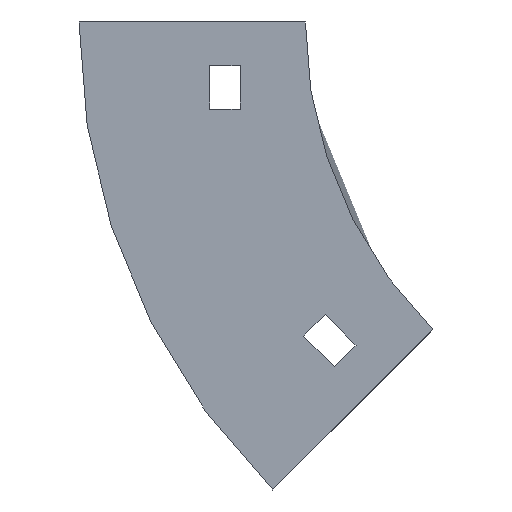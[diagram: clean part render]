
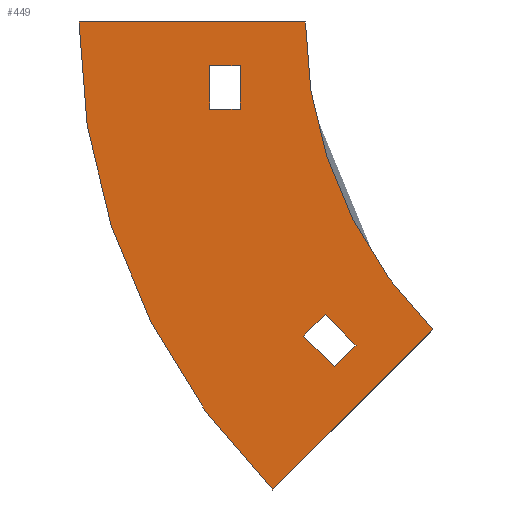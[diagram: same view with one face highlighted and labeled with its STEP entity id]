
A CAD part, left-side view. The second image highlights one B-rep face of the part: STEP entity #449.
In plain terms, the highlighted planar face has unit normal (-1, 0, 0).
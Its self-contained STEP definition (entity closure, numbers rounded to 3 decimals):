
#17 = VECTOR ( 'NONE', #924, 1000. ) ;
#23 = EDGE_CURVE ( 'NONE', #770, #645, #608, .T. ) ;
#40 = CARTESIAN_POINT ( 'NONE',  ( -252., 0.409, -72.125 ) ) ;
#57 = VECTOR ( 'NONE', #773, 1000. ) ;
#89 = CARTESIAN_POINT ( 'NONE',  ( -252., -29.289, -70.711 ) ) ;
#101 = CIRCLE ( 'NONE', #1066, 100. ) ;
#106 = ORIENTED_EDGE ( 'NONE', *, *, #335, .F. ) ;
#108 = PLANE ( 'NONE',  #501 ) ;
#116 = VECTOR ( 'NONE', #1038, 1000. ) ;
#118 = DIRECTION ( 'NONE',  ( 0., 1., 0. ) ) ;
#120 = ORIENTED_EDGE ( 'NONE', *, *, #23, .T. ) ;
#125 = EDGE_CURVE ( 'NONE', #1026, #987, #580, .T. ) ;
#135 = AXIS2_PLACEMENT_3D ( 'NONE', #1110, #834, #660 ) ;
#138 = VERTEX_POINT ( 'NONE', #1017 ) ;
#151 = CARTESIAN_POINT ( 'NONE',  ( -252., -29.289, -70.711 ) ) ;
#222 = DIRECTION ( 'NONE',  ( 0., 0.707, -0.707 ) ) ;
#227 = VECTOR ( 'NONE', #118, 1000. ) ;
#234 = DIRECTION ( 'NONE',  ( 0., -1., 0. ) ) ;
#262 = ORIENTED_EDGE ( 'NONE', *, *, #888, .F. ) ;
#266 = CARTESIAN_POINT ( 'NONE',  ( -252., 7.48, -107.48 ) ) ;
#292 = CARTESIAN_POINT ( 'NONE',  ( -252., -11.612, -74.246 ) ) ;
#299 = DIRECTION ( 'NONE',  ( -1., 0., 0. ) ) ;
#300 = CARTESIAN_POINT ( 'NONE',  ( -252., 15., -10. ) ) ;
#301 = DIRECTION ( 'NONE',  ( 0., 0., 1. ) ) ;
#313 = DIRECTION ( 'NONE',  ( 0., -0.707, 0.707 ) ) ;
#329 = CARTESIAN_POINT ( 'NONE',  ( -252., 15., -10. ) ) ;
#335 = EDGE_CURVE ( 'NONE', #341, #1097, #830, .T. ) ;
#341 = VERTEX_POINT ( 'NONE', #40 ) ;
#349 = ORIENTED_EDGE ( 'NONE', *, *, #1044, .F. ) ;
#358 = VECTOR ( 'NONE', #989, 1000. ) ;
#359 = VECTOR ( 'NONE', #234, 1000. ) ;
#369 = LINE ( 'NONE', #1085, #227 ) ;
#373 = LINE ( 'NONE', #540, #847 ) ;
#395 = ORIENTED_EDGE ( 'NONE', *, *, #125, .F. ) ;
#396 = CARTESIAN_POINT ( 'NONE',  ( -252., -11.612, -74.246 ) ) ;
#398 = EDGE_CURVE ( 'NONE', #425, #770, #1048, .T. ) ;
#415 = CARTESIAN_POINT ( 'NONE',  ( -252., 52., 0. ) ) ;
#425 = VERTEX_POINT ( 'NONE', #758 ) ;
#437 = ORIENTED_EDGE ( 'NONE', *, *, #753, .T. ) ;
#449 = ADVANCED_FACE ( 'NONE', ( #472, #477, #909 ), #108, .T. ) ;
#467 = CARTESIAN_POINT ( 'NONE',  ( -252., -4.541, -67.175 ) ) ;
#472 = FACE_BOUND ( 'NONE', #706, .T. ) ;
#477 = FACE_OUTER_BOUND ( 'NONE', #825, .T. ) ;
#501 = AXIS2_PLACEMENT_3D ( 'NONE', #734, #1016, #301 ) ;
#511 = EDGE_LOOP ( 'NONE', ( #395, #1057, #106, #1143 ) ) ;
#515 = ORIENTED_EDGE ( 'NONE', *, *, #760, .T. ) ;
#516 = LINE ( 'NONE', #1054, #521 ) ;
#521 = VECTOR ( 'NONE', #786, 1000. ) ;
#539 = VERTEX_POINT ( 'NONE', #759 ) ;
#540 = CARTESIAN_POINT ( 'NONE',  ( -252., 22., -10. ) ) ;
#580 = LINE ( 'NONE', #396, #17 ) ;
#608 = LINE ( 'NONE', #329, #116 ) ;
#611 = CARTESIAN_POINT ( 'NONE',  ( -252., 22., -20. ) ) ;
#626 = EDGE_CURVE ( 'NONE', #138, #539, #1021, .T. ) ;
#638 = DIRECTION ( 'NONE',  ( 0., 0., 1. ) ) ;
#639 = CIRCLE ( 'NONE', #135, 152. ) ;
#642 = EDGE_CURVE ( 'NONE', #987, #341, #516, .T. ) ;
#645 = VERTEX_POINT ( 'NONE', #709 ) ;
#646 = LINE ( 'NONE', #1000, #1050 ) ;
#658 = ORIENTED_EDGE ( 'NONE', *, *, #626, .F. ) ;
#660 = DIRECTION ( 'NONE',  ( 0., 0., 1. ) ) ;
#674 = VERTEX_POINT ( 'NONE', #611 ) ;
#682 = VERTEX_POINT ( 'NONE', #266 ) ;
#706 = EDGE_LOOP ( 'NONE', ( #750, #120, #515, #437 ) ) ;
#709 = CARTESIAN_POINT ( 'NONE',  ( -252., 15., -20. ) ) ;
#734 = CARTESIAN_POINT ( 'NONE',  ( -252., -100., 0. ) ) ;
#741 = CARTESIAN_POINT ( 'NONE',  ( -252., -6.662, -79.196 ) ) ;
#750 = ORIENTED_EDGE ( 'NONE', *, *, #398, .T. ) ;
#753 = EDGE_CURVE ( 'NONE', #674, #425, #373, .T. ) ;
#758 = CARTESIAN_POINT ( 'NONE',  ( -252., 22., -10. ) ) ;
#759 = CARTESIAN_POINT ( 'NONE',  ( -252., 0., 0. ) ) ;
#760 = EDGE_CURVE ( 'NONE', #645, #674, #369, .T. ) ;
#761 = CARTESIAN_POINT ( 'NONE',  ( -252., -6.662, -79.196 ) ) ;
#770 = VERTEX_POINT ( 'NONE', #300 ) ;
#773 = DIRECTION ( 'NONE',  ( 0., -1., 0. ) ) ;
#786 = DIRECTION ( 'NONE',  ( 0., 0.707, -0.707 ) ) ;
#825 = EDGE_LOOP ( 'NONE', ( #349, #658, #936, #262 ) ) ;
#830 = LINE ( 'NONE', #741, #358 ) ;
#833 = DIRECTION ( 'NONE',  ( 0., 0., 1. ) ) ;
#834 = DIRECTION ( 'NONE',  ( 1., 0., 0. ) ) ;
#847 = VECTOR ( 'NONE', #638, 1000. ) ;
#854 = EDGE_CURVE ( 'NONE', #1097, #1026, #646, .T. ) ;
#861 = EDGE_CURVE ( 'NONE', #682, #138, #639, .T. ) ;
#888 = EDGE_CURVE ( 'NONE', #922, #682, #944, .T. ) ;
#909 = FACE_BOUND ( 'NONE', #511, .T. ) ;
#922 = VERTEX_POINT ( 'NONE', #89 ) ;
#924 = DIRECTION ( 'NONE',  ( 0., 0.707, 0.707 ) ) ;
#928 = VECTOR ( 'NONE', #222, 1000. ) ;
#936 = ORIENTED_EDGE ( 'NONE', *, *, #861, .F. ) ;
#944 = LINE ( 'NONE', #151, #928 ) ;
#987 = VERTEX_POINT ( 'NONE', #467 ) ;
#989 = DIRECTION ( 'NONE',  ( 0., -0.707, -0.707 ) ) ;
#1000 = CARTESIAN_POINT ( 'NONE',  ( -252., -6.662, -79.196 ) ) ;
#1016 = DIRECTION ( 'NONE',  ( -1., 0., 0. ) ) ;
#1017 = CARTESIAN_POINT ( 'NONE',  ( -252., 52., 0. ) ) ;
#1021 = LINE ( 'NONE', #415, #57 ) ;
#1026 = VERTEX_POINT ( 'NONE', #292 ) ;
#1038 = DIRECTION ( 'NONE',  ( 0., 0., -1. ) ) ;
#1044 = EDGE_CURVE ( 'NONE', #539, #922, #101, .T. ) ;
#1048 = LINE ( 'NONE', #1111, #359 ) ;
#1050 = VECTOR ( 'NONE', #313, 1000. ) ;
#1054 = CARTESIAN_POINT ( 'NONE',  ( -252., 0.409, -72.125 ) ) ;
#1057 = ORIENTED_EDGE ( 'NONE', *, *, #854, .F. ) ;
#1066 = AXIS2_PLACEMENT_3D ( 'NONE', #1098, #299, #833 ) ;
#1085 = CARTESIAN_POINT ( 'NONE',  ( -252., 22., -20. ) ) ;
#1097 = VERTEX_POINT ( 'NONE', #761 ) ;
#1098 = CARTESIAN_POINT ( 'NONE',  ( -252., -100., 0. ) ) ;
#1110 = CARTESIAN_POINT ( 'NONE',  ( -252., -100., 0. ) ) ;
#1111 = CARTESIAN_POINT ( 'NONE',  ( -252., 22., -10. ) ) ;
#1143 = ORIENTED_EDGE ( 'NONE', *, *, #642, .F. ) ;
